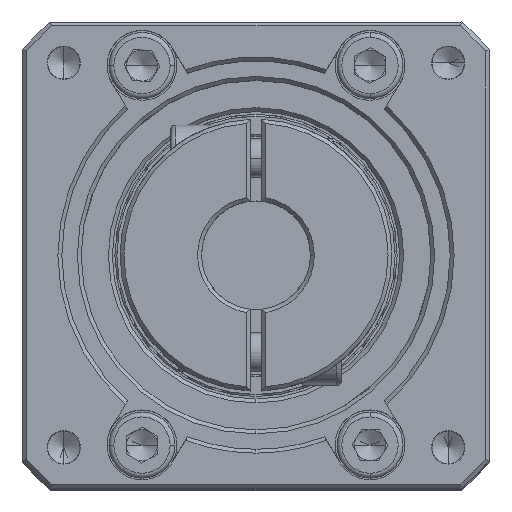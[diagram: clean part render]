
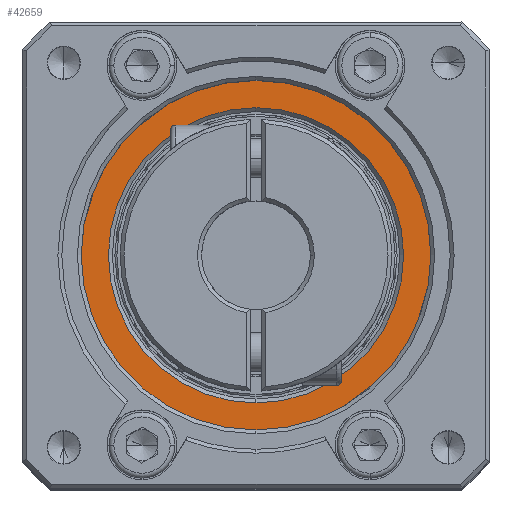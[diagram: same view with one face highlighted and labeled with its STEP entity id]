
A CAD part, top view. The second image highlights one B-rep face of the part: STEP entity #42659.
In plain terms, the highlighted planar face has unit normal (0, 0, 1).
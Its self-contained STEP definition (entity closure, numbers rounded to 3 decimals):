
#2040 = ORIENTED_EDGE ( 'NONE', *, *, #5984, .T. ) ;
#2721 = CARTESIAN_POINT ( 'NONE',  ( -28.833, 27.776, -4.178 ) ) ;
#2739 = AXIS2_PLACEMENT_3D ( 'NONE', #103578, #54779, #63123 ) ;
#4015 = CIRCLE ( 'NONE', #2739, 22.5 ) ;
#5984 = EDGE_CURVE ( 'NONE', #95272, #87969, #4015, .T. ) ;
#7484 = CARTESIAN_POINT ( 'NONE',  ( -28.833, 46.776, -4.178 ) ) ;
#10813 = EDGE_CURVE ( 'NONE', #23032, #64755, #56567, .T. ) ;
#11524 = DIRECTION ( 'NONE',  ( 0., -1., 0. ) ) ;
#13261 = DIRECTION ( 'NONE',  ( 0., 0., 1. ) ) ;
#17288 = DIRECTION ( 'NONE',  ( 0., -1., 0. ) ) ;
#18023 = DIRECTION ( 'NONE',  ( 0., 0., -1. ) ) ;
#18868 = ORIENTED_EDGE ( 'NONE', *, *, #33372, .T. ) ;
#19307 = CARTESIAN_POINT ( 'NONE',  ( -28.833, 50.276, -4.178 ) ) ;
#19486 = PLANE ( 'NONE',  #87918 ) ;
#19983 = EDGE_LOOP ( 'NONE', ( #18868, #2040 ) ) ;
#23032 = VERTEX_POINT ( 'NONE', #64033 ) ;
#26464 = DIRECTION ( 'NONE',  ( 0., -1., 0. ) ) ;
#28084 = FACE_OUTER_BOUND ( 'NONE', #19983, .T. ) ;
#28772 = AXIS2_PLACEMENT_3D ( 'NONE', #104056, #13261, #30306 ) ;
#30306 = DIRECTION ( 'NONE',  ( 0., -1., 0. ) ) ;
#32598 = CIRCLE ( 'NONE', #28772, 22.5 ) ;
#33372 = EDGE_CURVE ( 'NONE', #87969, #95272, #32598, .T. ) ;
#33997 = CARTESIAN_POINT ( 'NONE',  ( -28.833, 27.776, -4.178 ) ) ;
#40027 = AXIS2_PLACEMENT_3D ( 'NONE', #43954, #100927, #26464 ) ;
#42659 = ADVANCED_FACE ( 'NONE', ( #101188, #28084 ), #19486, .T. ) ;
#43954 = CARTESIAN_POINT ( 'NONE',  ( -28.833, 27.776, -4.178 ) ) ;
#51031 = CARTESIAN_POINT ( 'NONE',  ( -28.833, 5.276, -4.178 ) ) ;
#54779 = DIRECTION ( 'NONE',  ( 0., 0., 1. ) ) ;
#56567 = CIRCLE ( 'NONE', #96442, 19. ) ;
#57077 = ORIENTED_EDGE ( 'NONE', *, *, #10813, .T. ) ;
#63123 = DIRECTION ( 'NONE',  ( 0., -1., 0. ) ) ;
#64033 = CARTESIAN_POINT ( 'NONE',  ( -28.833, 8.776, -4.178 ) ) ;
#64755 = VERTEX_POINT ( 'NONE', #7484 ) ;
#70261 = DIRECTION ( 'NONE',  ( 0., 0., 1. ) ) ;
#77463 = EDGE_CURVE ( 'NONE', #64755, #23032, #105567, .T. ) ;
#87918 = AXIS2_PLACEMENT_3D ( 'NONE', #2721, #70261, #11524 ) ;
#87969 = VERTEX_POINT ( 'NONE', #51031 ) ;
#91975 = ORIENTED_EDGE ( 'NONE', *, *, #77463, .T. ) ;
#95272 = VERTEX_POINT ( 'NONE', #19307 ) ;
#96442 = AXIS2_PLACEMENT_3D ( 'NONE', #33997, #18023, #17288 ) ;
#100927 = DIRECTION ( 'NONE',  ( 0., 0., -1. ) ) ;
#101188 = FACE_BOUND ( 'NONE', #107437, .T. ) ;
#103578 = CARTESIAN_POINT ( 'NONE',  ( -28.833, 27.776, -4.178 ) ) ;
#104056 = CARTESIAN_POINT ( 'NONE',  ( -28.833, 27.776, -4.178 ) ) ;
#105567 = CIRCLE ( 'NONE', #40027, 19. ) ;
#107437 = EDGE_LOOP ( 'NONE', ( #57077, #91975 ) ) ;
